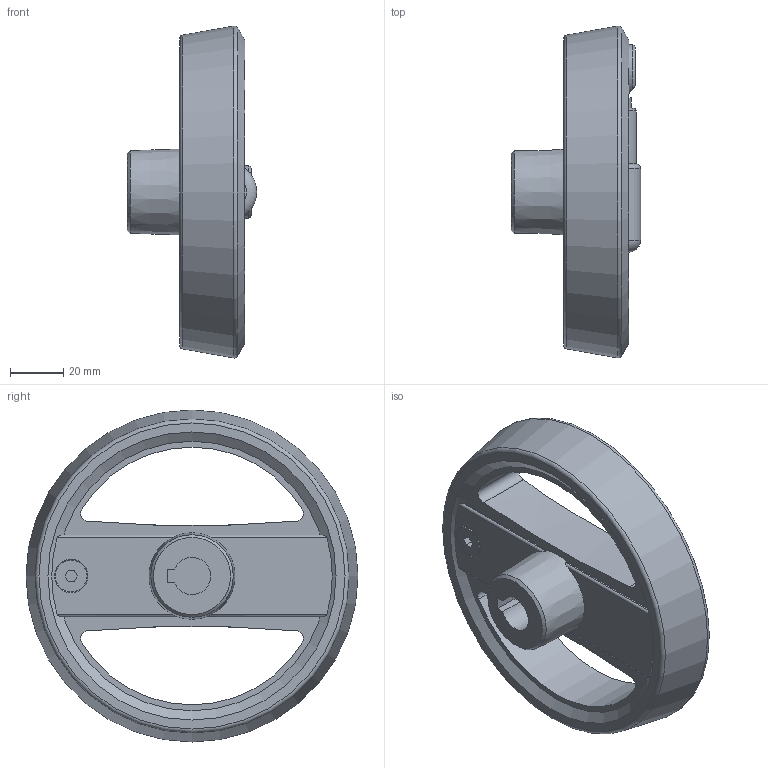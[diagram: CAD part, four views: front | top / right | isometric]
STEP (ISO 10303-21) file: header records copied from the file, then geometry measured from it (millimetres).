
FILE_DESCRIPTION( ( 'STEP AP203' ), '1' );
FILE_NAME( 'C:/Temp/Ganter_Step_05_03_2020/data/1_3/gn_924_7/gn_924_7_k/Handwheel with retractable handle GN 924.7-125-K14-R-SW (unactivated).stp', '2020-03-05T10:41:53', ( 'License CC BY-ND 4.0' ), ( 'CADENAS' ), ' ', 'PARTsolutions', ' ' );
FILE_SCHEMA( ( 'CONFIG_CONTROL_DESIGN' ) );
Length unit declared in the file: millimetre
Products named in the file (3): Handwheel with retractable handle GN 924.7-125-K14-R-SW (unactivated); _Umleggriff-Handrad GN 924.7-125-K14-R-SW-1; _Umleggriff-Handrad GN 924.7-125-K14-R-SW (0)-2
Assembly tree (2 placements, depth 2):
  Handwheel with retractable handle GN 924.7-125-K14-R-SW (unactivated)
    _Umleggriff-Handrad GN 924.7-125-K14-R-SW-1
    _Umleggriff-Handrad GN 924.7-125-K14-R-SW (0)-2
Bounding box: 48.7 x 125 x 125 mm (x, y, z)
Volume: 164847.8 mm3; surface area: 51659 mm2
Topology: 2 solids, 2 shells, 106 faces, 267 edges, 171 vertices
Faces by surface type: plane 46, cylinder 39, cone 11, torus 8, sphere 2
Full cylindrical faces by diameter (mm): 4 x4, 5 x1, 8 x1, 12 x1, 15 x1, 18.5 x1, 20 x1, 22 x1, 25 x1, 26.6 x1
Entity records: 3484 total; most frequent: CARTESIAN_POINT 988, DIRECTION 494, ORIENTED_EDGE 452, EDGE_CURVE 226, AXIS2_PLACEMENT_3D 203, VERTEX_POINT 165, EDGE_LOOP 158, FACE_OUTER_BOUND 126
